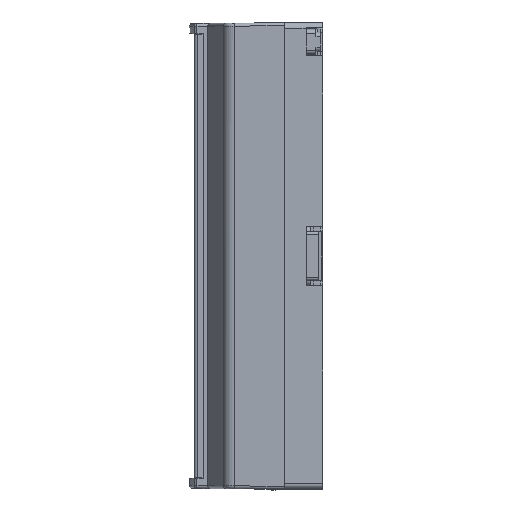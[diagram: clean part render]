
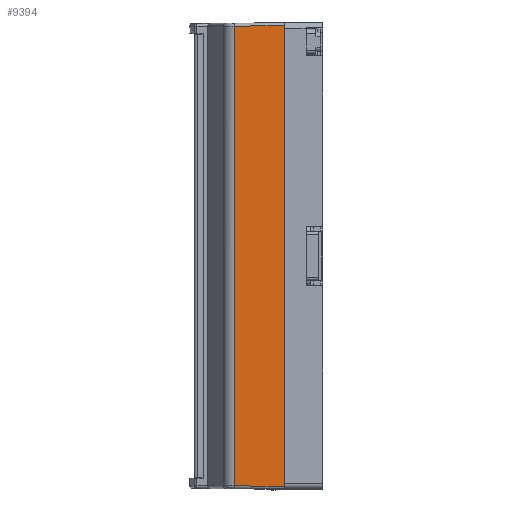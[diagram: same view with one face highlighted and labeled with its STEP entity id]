
A CAD part, left-side view. The second image highlights one B-rep face of the part: STEP entity #9394.
In plain terms, the highlighted planar face has unit normal (-1, 0.018, 0).
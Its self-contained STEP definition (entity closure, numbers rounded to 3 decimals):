
#120 = DIRECTION ( 'NONE',  ( 0.017, 1., -0.009 ) ) ;
#550 = VERTEX_POINT ( 'NONE', #4655 ) ;
#726 = DIRECTION ( 'NONE',  ( 0., 0., -1. ) ) ;
#947 = CARTESIAN_POINT ( 'NONE',  ( -44.857, 16.796, -77.504 ) ) ;
#1092 = VECTOR ( 'NONE', #3679, 1000. ) ;
#1311 = VECTOR ( 'NONE', #726, 1000. ) ;
#1946 = PLANE ( 'NONE',  #10776 ) ;
#2364 = EDGE_CURVE ( 'NONE', #550, #13900, #6649, .T. ) ;
#2965 = ORIENTED_EDGE ( 'NONE', *, *, #3918, .T. ) ;
#3140 = FACE_OUTER_BOUND ( 'NONE', #14154, .T. ) ;
#3245 = ORIENTED_EDGE ( 'NONE', *, *, #4177, .T. ) ;
#3679 = DIRECTION ( 'NONE',  ( -0.017, -1., -0.009 ) ) ;
#3918 = EDGE_CURVE ( 'NONE', #13900, #6076, #13625, .T. ) ;
#3959 = CARTESIAN_POINT ( 'NONE',  ( -45.126, 1.363, -77.638 ) ) ;
#4177 = EDGE_CURVE ( 'NONE', #7039, #550, #15436, .T. ) ;
#4607 = DIRECTION ( 'NONE',  ( 1., -0.017, 0. ) ) ;
#4655 = CARTESIAN_POINT ( 'NONE',  ( -44.857, 16.796, 77.504 ) ) ;
#5803 = VECTOR ( 'NONE', #120, 1000. ) ;
#5896 = CARTESIAN_POINT ( 'NONE',  ( -44.857, 16.788, 77.504 ) ) ;
#6076 = VERTEX_POINT ( 'NONE', #9851 ) ;
#6471 = CARTESIAN_POINT ( 'NONE',  ( -44.857, 16.796, 78.65 ) ) ;
#6649 = LINE ( 'NONE', #6471, #17377 ) ;
#7039 = VERTEX_POINT ( 'NONE', #16473 ) ;
#7373 = DIRECTION ( 'NONE',  ( 0.017, 1., 0. ) ) ;
#8754 = CARTESIAN_POINT ( 'NONE',  ( -45.15, 0., 78.65 ) ) ;
#9394 = ADVANCED_FACE ( 'NONE', ( #3140 ), #1946, .F. ) ;
#9851 = CARTESIAN_POINT ( 'NONE',  ( -45.15, 0., -77.65 ) ) ;
#10776 = AXIS2_PLACEMENT_3D ( 'NONE', #8754, #4607, #7373 ) ;
#11179 = ORIENTED_EDGE ( 'NONE', *, *, #2364, .T. ) ;
#12023 = CARTESIAN_POINT ( 'NONE',  ( -45.15, 0., 78.65 ) ) ;
#13625 = LINE ( 'NONE', #3959, #1092 ) ;
#13900 = VERTEX_POINT ( 'NONE', #947 ) ;
#14154 = EDGE_LOOP ( 'NONE', ( #11179, #2965, #17342, #3245 ) ) ;
#15436 = LINE ( 'NONE', #5896, #5803 ) ;
#16473 = CARTESIAN_POINT ( 'NONE',  ( -45.15, 0., 77.65 ) ) ;
#17342 = ORIENTED_EDGE ( 'NONE', *, *, #18117, .F. ) ;
#17377 = VECTOR ( 'NONE', #17854, 1000. ) ;
#17422 = LINE ( 'NONE', #12023, #1311 ) ;
#17854 = DIRECTION ( 'NONE',  ( 0., 0., -1. ) ) ;
#18117 = EDGE_CURVE ( 'NONE', #7039, #6076, #17422, .T. ) ;
